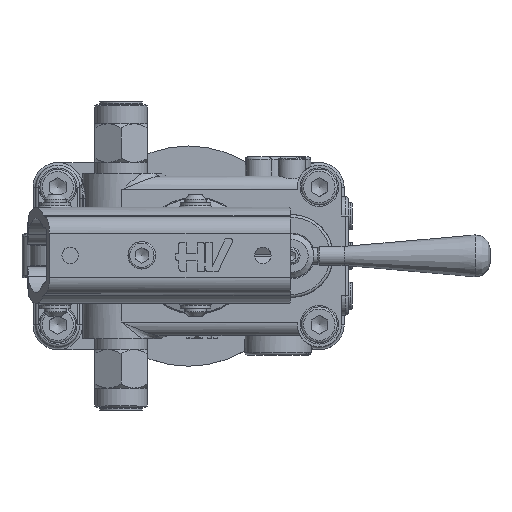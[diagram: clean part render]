
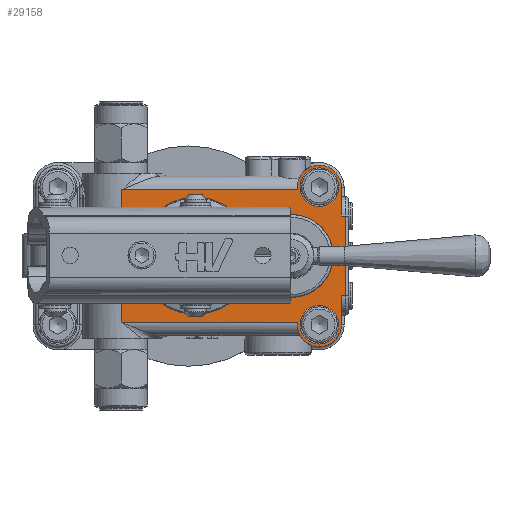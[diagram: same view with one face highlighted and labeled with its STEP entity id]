
A CAD part, top view. The second image highlights one B-rep face of the part: STEP entity #29158.
In plain terms, the highlighted planar face has unit normal (0, 0, 1).
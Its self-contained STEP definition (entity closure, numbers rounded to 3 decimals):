
#27459=CARTESIAN_POINT('',(96.,58.,43.));
#27460=VERTEX_POINT('',#27459);
#27468=CARTESIAN_POINT('',(96.,59.,43.));
#27469=VERTEX_POINT('',#27468);
#27470=CARTESIAN_POINT('',(96.,58.,43.));
#27471=DIRECTION('',(0.0,1.0,0.0));
#27472=VECTOR('',#27471,1.);
#27473=LINE('',#27470,#27472);
#27474=EDGE_CURVE('',#27460,#27469,#27473,.T.);
#27490=CARTESIAN_POINT('',(96.0,10.0,43.));
#27491=VERTEX_POINT('',#27490);
#27501=CARTESIAN_POINT('',(96.0,9.,43.));
#27502=VERTEX_POINT('',#27501);
#27509=CARTESIAN_POINT('',(96.,9.,43.));
#27510=DIRECTION('',(0.0,1.0,0.0));
#27511=VECTOR('',#27510,1.);
#27512=LINE('',#27509,#27511);
#27513=EDGE_CURVE('',#27502,#27491,#27512,.T.);
#27672=CARTESIAN_POINT('',(32.,44.122,43.));
#27673=VERTEX_POINT('',#27672);
#27722=CARTESIAN_POINT('',(33.732,41.0,43.));
#27723=VERTEX_POINT('',#27722);
#27731=CARTESIAN_POINT('',(33.732,41.0,43.));
#27732=CARTESIAN_POINT('',(33.732,41.528,43.));
#27733=CARTESIAN_POINT('',(33.438,42.767,43.));
#27734=CARTESIAN_POINT('',(32.582,43.719,43.));
#27735=CARTESIAN_POINT('',(32.,44.122,43.));
#27736=B_SPLINE_CURVE_WITH_KNOTS('',3,(#27731,#27732,#27733,#27734,#27735),.UNSPECIFIED.,.F.,.U.,(4,1,4),(2.696,2.855,3.066),.UNSPECIFIED.);
#27737=EDGE_CURVE('',#27723,#27673,#27736,.T.);
#27749=CARTESIAN_POINT('',(33.732,27.,43.));
#27750=VERTEX_POINT('',#27749);
#27758=CARTESIAN_POINT('',(33.732,27.,43.));
#27759=DIRECTION('',(0.0,1.0,0.0));
#27760=VECTOR('',#27759,14.);
#27761=LINE('',#27758,#27760);
#27762=EDGE_CURVE('',#27750,#27723,#27761,.T.);
#27795=CARTESIAN_POINT('',(32.,23.878,43.));
#27796=VERTEX_POINT('',#27795);
#27804=CARTESIAN_POINT('',(32.,23.878,43.));
#27805=CARTESIAN_POINT('',(32.433,24.178,43.));
#27806=CARTESIAN_POINT('',(33.336,25.067,43.));
#27807=CARTESIAN_POINT('',(33.732,26.29,43.0));
#27808=CARTESIAN_POINT('',(33.732,27.,43.));
#27809=B_SPLINE_CURVE_WITH_KNOTS('',3,(#27804,#27805,#27806,#27807,#27808),.UNSPECIFIED.,.F.,.U.,(4,1,4),(2.696,2.854,3.065),.UNSPECIFIED.);
#27810=EDGE_CURVE('',#27796,#27750,#27809,.T.);
#28539=CARTESIAN_POINT('',(112.0,59.,43.));
#28540=VERTEX_POINT('',#28539);
#28547=CARTESIAN_POINT('',(112.,48.5,43.));
#28548=VERTEX_POINT('',#28547);
#28549=CARTESIAN_POINT('',(112.0,59.,43.));
#28550=DIRECTION('',(0.0,-1.0,0.0));
#28551=VECTOR('',#28550,10.5);
#28552=LINE('',#28549,#28551);
#28553=EDGE_CURVE('',#28540,#28548,#28552,.T.);
#28668=CARTESIAN_POINT('',(112.0,19.5,43.));
#28669=VERTEX_POINT('',#28668);
#28677=CARTESIAN_POINT('',(112.,9.,43.));
#28678=VERTEX_POINT('',#28677);
#28679=CARTESIAN_POINT('',(112.,19.5,43.));
#28680=DIRECTION('',(0.0,-1.0,0.0));
#28681=VECTOR('',#28680,10.5);
#28682=LINE('',#28679,#28681);
#28683=EDGE_CURVE('',#28669,#28678,#28682,.T.);
#29015=CARTESIAN_POINT('',(113.5,48.5,43.));
#29016=VERTEX_POINT('',#29015);
#29026=CARTESIAN_POINT('',(112.,48.5,43.));
#29027=DIRECTION('',(1.0,0.0,0.0));
#29028=VECTOR('',#29027,1.5);
#29029=LINE('',#29026,#29028);
#29030=EDGE_CURVE('',#28548,#29016,#29029,.T.);
#29035=CARTESIAN_POINT('',(104.,34.,43.));
#29036=DIRECTION('',(0.0,0.0,1.0));
#29037=DIRECTION('',(1.0,0.0,0.0));
#29038=AXIS2_PLACEMENT_3D('',#29035,#29036,#29037);
#29039=PLANE('',#29038);
#29040=CARTESIAN_POINT('',(113.5,19.5,43.));
#29041=VERTEX_POINT('',#29040);
#29042=CARTESIAN_POINT('',(113.5,48.5,43.));
#29043=DIRECTION('',(0.0,-1.0,0.0));
#29044=VECTOR('',#29043,29.);
#29045=LINE('',#29042,#29044);
#29046=EDGE_CURVE('',#29016,#29041,#29045,.T.);
#29047=ORIENTED_EDGE('',*,*,#29046,.F.);
#29048=ORIENTED_EDGE('',*,*,#29030,.F.);
#29049=ORIENTED_EDGE('',*,*,#28553,.F.);
#29050=CARTESIAN_POINT('',(104.,59.,43.));
#29051=DIRECTION('',(0.0,0.0,-1.0));
#29052=DIRECTION('',(1.0,0.0,0.0));
#29053=AXIS2_PLACEMENT_3D('',#29050,#29051,#29052);
#29054=CIRCLE('',#29053,8.0);
#29055=EDGE_CURVE('',#27469,#28540,#29054,.T.);
#29056=ORIENTED_EDGE('',*,*,#29055,.F.);
#29057=ORIENTED_EDGE('',*,*,#27474,.F.);
#29058=CARTESIAN_POINT('',(32.,58.,43.));
#29059=VERTEX_POINT('',#29058);
#29060=CARTESIAN_POINT('',(96.,58.,43.));
#29061=DIRECTION('',(-1.0,0.0,0.0));
#29062=VECTOR('',#29061,64.);
#29063=LINE('',#29060,#29062);
#29064=EDGE_CURVE('',#27460,#29059,#29063,.T.);
#29065=ORIENTED_EDGE('',*,*,#29064,.T.);
#29066=CARTESIAN_POINT('',(32.0,44.122,43.0));
#29067=DIRECTION('',(0.0,1.0,0.0));
#29068=VECTOR('',#29067,13.878);
#29069=LINE('',#29066,#29068);
#29070=EDGE_CURVE('',#27673,#29059,#29069,.T.);
#29071=ORIENTED_EDGE('',*,*,#29070,.F.);
#29072=ORIENTED_EDGE('',*,*,#27737,.F.);
#29073=ORIENTED_EDGE('',*,*,#27762,.F.);
#29074=ORIENTED_EDGE('',*,*,#27810,.F.);
#29075=CARTESIAN_POINT('',(32.,10.0,43.));
#29076=VERTEX_POINT('',#29075);
#29077=CARTESIAN_POINT('',(32.0,10.,43.0));
#29078=DIRECTION('',(0.0,1.0,0.0));
#29079=VECTOR('',#29078,13.878);
#29080=LINE('',#29077,#29079);
#29081=EDGE_CURVE('',#29076,#27796,#29080,.T.);
#29082=ORIENTED_EDGE('',*,*,#29081,.F.);
#29083=CARTESIAN_POINT('',(96.0,10.0,43.));
#29084=DIRECTION('',(-1.0,0.0,0.0));
#29085=VECTOR('',#29084,64.);
#29086=LINE('',#29083,#29085);
#29087=EDGE_CURVE('',#27491,#29076,#29086,.T.);
#29088=ORIENTED_EDGE('',*,*,#29087,.F.);
#29089=ORIENTED_EDGE('',*,*,#27513,.F.);
#29090=CARTESIAN_POINT('',(104.0,9.,43.));
#29091=DIRECTION('',(0.0,0.0,-1.0));
#29092=DIRECTION('',(-1.0,0.0,0.0));
#29093=AXIS2_PLACEMENT_3D('',#29090,#29091,#29092);
#29094=CIRCLE('',#29093,8.0);
#29095=EDGE_CURVE('',#28678,#27502,#29094,.T.);
#29096=ORIENTED_EDGE('',*,*,#29095,.F.);
#29097=ORIENTED_EDGE('',*,*,#28683,.F.);
#29098=CARTESIAN_POINT('',(112.0,19.5,43.));
#29099=DIRECTION('',(1.0,0.0,0.0));
#29100=VECTOR('',#29099,1.5);
#29101=LINE('',#29098,#29100);
#29102=EDGE_CURVE('',#28669,#29041,#29101,.T.);
#29103=ORIENTED_EDGE('',*,*,#29102,.T.);
#29104=EDGE_LOOP('',(#29047,#29048,#29049,#29056,#29057,#29065,#29071,#29072,#29073,#29074,#29082,#29088,#29089,#29096,#29097,#29103));
#29105=FACE_OUTER_BOUND('',#29104,.T.);
#29106=CARTESIAN_POINT('',(66.976,51.247,43.));
#29107=VERTEX_POINT('',#29106);
#29108=CARTESIAN_POINT('',(59.,34.,43.));
#29109=DIRECTION('',(0.,0.,-1.0));
#29110=DIRECTION('',(-0.42,-0.908,0.));
#29111=AXIS2_PLACEMENT_3D('',#29108,#29109,#29110);
#29112=CIRCLE('',#29111,19.002);
#29113=EDGE_CURVE('',#29107,#29107,#29112,.T.);
#29114=ORIENTED_EDGE('',*,*,#29113,.T.);
#29115=EDGE_LOOP('',(#29114));
#29116=FACE_BOUND('',#29115,.T.);
#29117=CARTESIAN_POINT('',(111.,59.,43.));
#29118=VERTEX_POINT('',#29117);
#29119=CARTESIAN_POINT('',(104.,59.,43.));
#29120=DIRECTION('',(0.0,0.0,-1.0));
#29121=DIRECTION('',(1.0,0.0,0.0));
#29122=AXIS2_PLACEMENT_3D('',#29119,#29120,#29121);
#29123=CIRCLE('',#29122,7.);
#29124=EDGE_CURVE('',#29118,#29118,#29123,.T.);
#29125=ORIENTED_EDGE('',*,*,#29124,.T.);
#29126=EDGE_LOOP('',(#29125));
#29127=FACE_BOUND('',#29126,.T.);
#29128=CARTESIAN_POINT('',(111.0,9.,43.));
#29129=VERTEX_POINT('',#29128);
#29130=CARTESIAN_POINT('',(104.0,9.,43.));
#29131=DIRECTION('',(0.0,0.0,-1.0));
#29132=DIRECTION('',(1.0,0.0,0.0));
#29133=AXIS2_PLACEMENT_3D('',#29130,#29131,#29132);
#29134=CIRCLE('',#29133,7.);
#29135=EDGE_CURVE('',#29129,#29129,#29134,.T.);
#29136=ORIENTED_EDGE('',*,*,#29135,.T.);
#29137=EDGE_LOOP('',(#29136));
#29138=FACE_BOUND('',#29137,.T.);
#29139=CARTESIAN_POINT('',(83.0,44.198,43.));
#29140=VERTEX_POINT('',#29139);
#29141=CARTESIAN_POINT('',(83.0,23.802,43.));
#29142=VERTEX_POINT('',#29141);
#29143=CARTESIAN_POINT('',(94.,34.0,43.));
#29144=DIRECTION('',(0.0,0.0,-1.0));
#29145=DIRECTION('',(-1.0,0.0,0.0));
#29146=AXIS2_PLACEMENT_3D('',#29143,#29144,#29145);
#29147=CIRCLE('',#29146,15.0);
#29148=EDGE_CURVE('',#29140,#29142,#29147,.T.);
#29149=ORIENTED_EDGE('',*,*,#29148,.T.);
#29150=CARTESIAN_POINT('',(83.0,23.802,43.));
#29151=DIRECTION('',(0.0,1.0,0.0));
#29152=VECTOR('',#29151,20.396);
#29153=LINE('',#29150,#29152);
#29154=EDGE_CURVE('',#29142,#29140,#29153,.T.);
#29155=ORIENTED_EDGE('',*,*,#29154,.T.);
#29156=EDGE_LOOP('',(#29149,#29155));
#29157=FACE_BOUND('',#29156,.T.);
#29158=ADVANCED_FACE('',(#29105,#29116,#29127,#29138,#29157),#29039,.T.);
